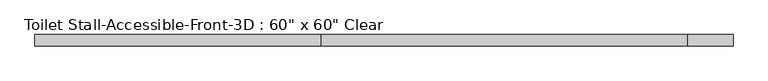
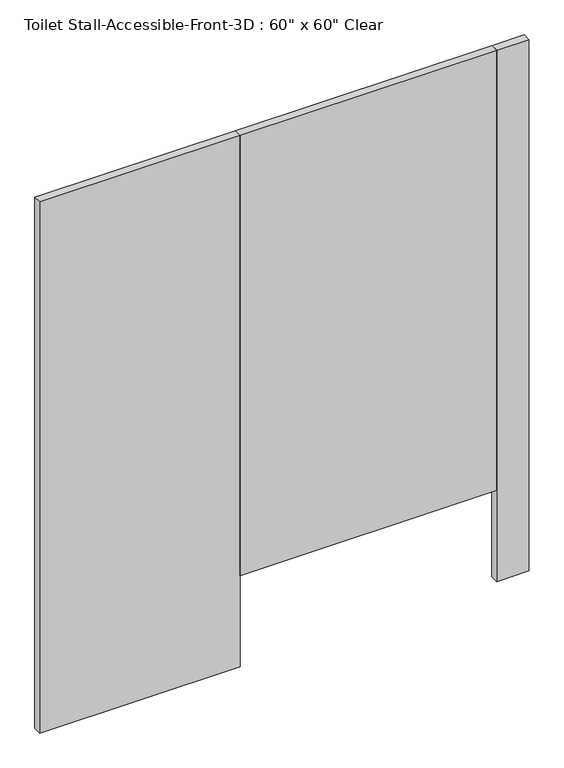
"""IFC4 building model written with IfcOpenShell, lengths in millimetres: proxy geometry."""

from ifc_helpers import new_model, si_unit, frame, origin, origin_with_axes, place, context, project, spatial, polyline, outline, extrude, source, transform, mapped, element, save


def proxy_8b2fbeef(model_context):
    return source(origin(), model_context, "Body", "SweptSolid", [
        extrude(outline(polyline([(1370.1031538, 1627.1875), (1370.1031538, 1601.7875), (557.3031538, 1601.7875), (557.3031538, 1627.1875), (1370.1031538, 1627.1875)])), frame((0.0, 0.0, 304.8), z_axis=(0.0, 0.0, 1.0), x_axis=(1.0, 0.0, 0.0)), (0.0, 0.0, 1.0), 1473.2),
        extrude(outline(polyline([(557.3031538, 1627.1875), (557.3031538, 1601.7875), (-77.6968462, 1601.7875), (-77.6968462, 1627.1875), (557.3031538, 1627.1875)])), origin_with_axes(), (0.0, 0.0, 1.0), 1778.0),
        extrude(outline(polyline([(1471.7031538, 1627.1875), (1471.7031538, 1601.7875), (1370.1031538, 1601.7875), (1370.1031538, 1627.1875), (1471.7031538, 1627.1875)])), origin_with_axes(), (0.0, 0.0, 1.0), 1778.0),
    ])


if __name__ == "__main__":
    model = new_model("IFC4")
    model_context = context("Model", 3, world=origin())
    ifc_project = project(units=[si_unit("LENGTHUNIT", "METRE", prefix="MILLI")], contexts=[model_context])
    site = spatial("IfcSite", under=ifc_project)
    building = spatial("IfcBuilding", under=site)
    placement = place(None, origin())
    proxy_shape = proxy_8b2fbeef(model_context)
    element("IfcBuildingElementProxy", 1, Name="Toilet Stall-Accessible-Front-3D : 60\" x 60\" Clear", ObjectType="Toilet Stall-Accessible-Front-3D : 60\" x 60\" Clear", at=placement, inside=building, context=model_context, shape_type="MappedRepresentation", body=[
        mapped(proxy_shape, transform((0.0, 0.0, 0.0), x_axis=(1.0, 0.0, 0.0), y_axis=(0.0, 1.0, 0.0), z_axis=(0.0, 0.0, 1.0))),
    ])
    save(model, "model.ifc")
